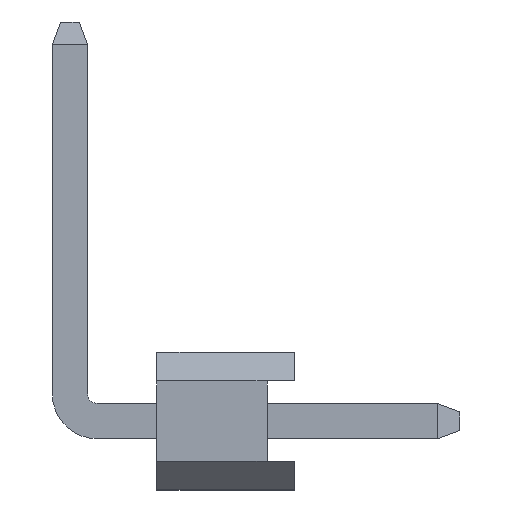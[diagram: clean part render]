
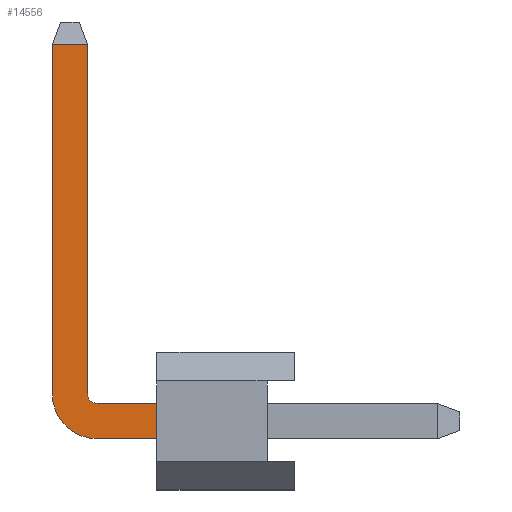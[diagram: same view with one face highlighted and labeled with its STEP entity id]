
A CAD part, left-side view. The second image highlights one B-rep face of the part: STEP entity #14556.
In plain terms, the highlighted planar face has unit normal (-1, 0, 0).
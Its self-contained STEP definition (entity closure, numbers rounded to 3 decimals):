
#476 = CARTESIAN_POINT ( 'NONE',  ( -4.11, 2., 5.099 ) ) ;
#494 = VECTOR ( 'NONE', #1727, 1000. ) ;
#505 = EDGE_CURVE ( 'NONE', #13478, #2991, #3138, .T. ) ;
#563 = VECTOR ( 'NONE', #13771, 1000. ) ;
#628 = DIRECTION ( 'NONE',  ( 0., -1., 0. ) ) ;
#746 = CARTESIAN_POINT ( 'NONE',  ( -4.11, 5.9, 5.099 ) ) ;
#836 = VERTEX_POINT ( 'NONE', #2700 ) ;
#986 = CARTESIAN_POINT ( 'NONE',  ( -4.11, 3.08, 5.279 ) ) ;
#1611 = DIRECTION ( 'NONE',  ( 0., 0., 1. ) ) ;
#1656 = VERTEX_POINT ( 'NONE', #10486 ) ;
#1727 = DIRECTION ( 'NONE',  ( 0., -1., 0. ) ) ;
#2081 = VECTOR ( 'NONE', #628, 1000. ) ;
#2160 = ORIENTED_EDGE ( 'NONE', *, *, #15652, .F. ) ;
#2230 = DIRECTION ( 'NONE',  ( 1., 0., 0. ) ) ;
#2260 = CIRCLE ( 'NONE', #6786, 0.82 ) ;
#2428 = ORIENTED_EDGE ( 'NONE', *, *, #6984, .F. ) ;
#2700 = CARTESIAN_POINT ( 'NONE',  ( -4.11, 3.26, 5.279 ) ) ;
#2718 = DIRECTION ( 'NONE',  ( 1., 0., 0. ) ) ;
#2991 = VERTEX_POINT ( 'NONE', #4809 ) ;
#3121 = ORIENTED_EDGE ( 'NONE', *, *, #13217, .T. ) ;
#3138 = LINE ( 'NONE', #14454, #494 ) ;
#3308 = FACE_OUTER_BOUND ( 'NONE', #14916, .T. ) ;
#3501 = EDGE_CURVE ( 'NONE', #1656, #7011, #13853, .T. ) ;
#3695 = CARTESIAN_POINT ( 'NONE',  ( -4.11, 3.08, 4.459 ) ) ;
#4045 = DIRECTION ( 'NONE',  ( 0., 0., -1. ) ) ;
#4162 = ORIENTED_EDGE ( 'NONE', *, *, #505, .T. ) ;
#4178 = CARTESIAN_POINT ( 'NONE',  ( -4.11, 3.9, 5.279 ) ) ;
#4214 = CARTESIAN_POINT ( 'NONE',  ( -4.11, 2., 5.099 ) ) ;
#4296 = CARTESIAN_POINT ( 'NONE',  ( -4.11, 3.08, 5.279 ) ) ;
#4809 = CARTESIAN_POINT ( 'NONE',  ( -4.11, 2., 4.459 ) ) ;
#5544 = DIRECTION ( 'NONE',  ( 0., 0., 1. ) ) ;
#5864 = LINE ( 'NONE', #15934, #2081 ) ;
#6224 = DIRECTION ( 'NONE',  ( 0., 0., -1. ) ) ;
#6278 = EDGE_CURVE ( 'NONE', #836, #7011, #10597, .T. ) ;
#6722 = CARTESIAN_POINT ( 'NONE',  ( -4.11, 3.08, 5.099 ) ) ;
#6786 = AXIS2_PLACEMENT_3D ( 'NONE', #986, #2230, #6224 ) ;
#6794 = AXIS2_PLACEMENT_3D ( 'NONE', #4296, #2718, #4045 ) ;
#6977 = DIRECTION ( 'NONE',  ( 0., -1., 0. ) ) ;
#6984 = EDGE_CURVE ( 'NONE', #13478, #7696, #2260, .T. ) ;
#7011 = VERTEX_POINT ( 'NONE', #11221 ) ;
#7322 = EDGE_CURVE ( 'NONE', #11690, #836, #15301, .T. ) ;
#7696 = VERTEX_POINT ( 'NONE', #4178 ) ;
#8036 = LINE ( 'NONE', #476, #12084 ) ;
#8101 = ORIENTED_EDGE ( 'NONE', *, *, #9106, .F. ) ;
#8229 = PLANE ( 'NONE',  #14218 ) ;
#9106 = EDGE_CURVE ( 'NONE', #11690, #13269, #5864, .T. ) ;
#9719 = CARTESIAN_POINT ( 'NONE',  ( -4.11, 3.9, 5.279 ) ) ;
#10419 = CARTESIAN_POINT ( 'NONE',  ( -4.11, 3.26, 5.279 ) ) ;
#10486 = CARTESIAN_POINT ( 'NONE',  ( -4.11, 3.9, 11.629 ) ) ;
#10524 = VECTOR ( 'NONE', #12239, 1000. ) ;
#10597 = LINE ( 'NONE', #10419, #15812 ) ;
#10982 = LINE ( 'NONE', #9719, #10524 ) ;
#11221 = CARTESIAN_POINT ( 'NONE',  ( -4.11, 3.26, 11.629 ) ) ;
#11690 = VERTEX_POINT ( 'NONE', #6722 ) ;
#12084 = VECTOR ( 'NONE', #5544, 1000. ) ;
#12239 = DIRECTION ( 'NONE',  ( 0., 0., 1. ) ) ;
#12609 = ORIENTED_EDGE ( 'NONE', *, *, #3501, .F. ) ;
#13217 = EDGE_CURVE ( 'NONE', #2991, #13269, #8036, .T. ) ;
#13269 = VERTEX_POINT ( 'NONE', #4214 ) ;
#13478 = VERTEX_POINT ( 'NONE', #3695 ) ;
#13771 = DIRECTION ( 'NONE',  ( 0., -1., 0. ) ) ;
#13853 = LINE ( 'NONE', #16433, #563 ) ;
#14218 = AXIS2_PLACEMENT_3D ( 'NONE', #746, #15969, #6977 ) ;
#14454 = CARTESIAN_POINT ( 'NONE',  ( -4.11, 5.9, 4.459 ) ) ;
#14556 = ADVANCED_FACE ( 'NONE', ( #3308 ), #8229, .T. ) ;
#14916 = EDGE_LOOP ( 'NONE', ( #3121, #8101, #15872, #16207, #12609, #2160, #2428, #4162 ) ) ;
#15301 = CIRCLE ( 'NONE', #6794, 0.18 ) ;
#15652 = EDGE_CURVE ( 'NONE', #7696, #1656, #10982, .T. ) ;
#15812 = VECTOR ( 'NONE', #1611, 1000. ) ;
#15872 = ORIENTED_EDGE ( 'NONE', *, *, #7322, .T. ) ;
#15934 = CARTESIAN_POINT ( 'NONE',  ( -4.11, 5.9, 5.099 ) ) ;
#15969 = DIRECTION ( 'NONE',  ( -1., 0., 0. ) ) ;
#16207 = ORIENTED_EDGE ( 'NONE', *, *, #6278, .T. ) ;
#16433 = CARTESIAN_POINT ( 'NONE',  ( -4.11, 4.74, 11.629 ) ) ;
